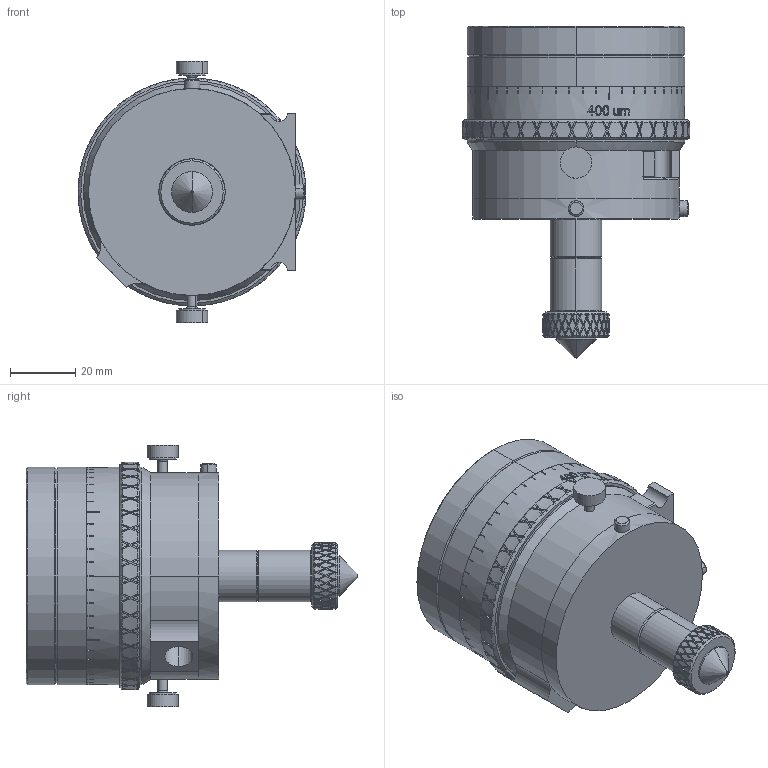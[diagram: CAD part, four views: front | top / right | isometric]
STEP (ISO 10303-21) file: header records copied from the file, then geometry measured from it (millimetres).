
FILE_DESCRIPTION (( 'STEP AP214' ), '1' );
FILE_NAME ('MMH-25-34-80.STEP', '2017-07-27T21:15:08', ( '' ), ( '' ), 'SwSTEP 2.0', 'SolidWorks 2017', '' );
FILE_SCHEMA (( 'AUTOMOTIVE_DESIGN' ));
Length unit declared in the file: inch
Products named in the file (1): MMH-25-34-80
Bounding box: 69.85 x 101.81 x 80.3 mm (x, y, z)
Volume: 208915.1 mm3; surface area: 40047.3 mm2
Topology: 1 solids, 1 shells, 1646 faces, 4802 edges, 3203 vertices
Faces by surface type: plane 1193, cylinder 323, bspline 94, cone 32, torus 4
Entity records: 59677 total; most frequent: CARTESIAN_POINT 19918, ORIENTED_EDGE 9604, DIRECTION 6741, EDGE_CURVE 4802, VERTEX_POINT 3203, VECTOR 2465, LINE 2465, AXIS2_PLACEMENT_3D 2138
